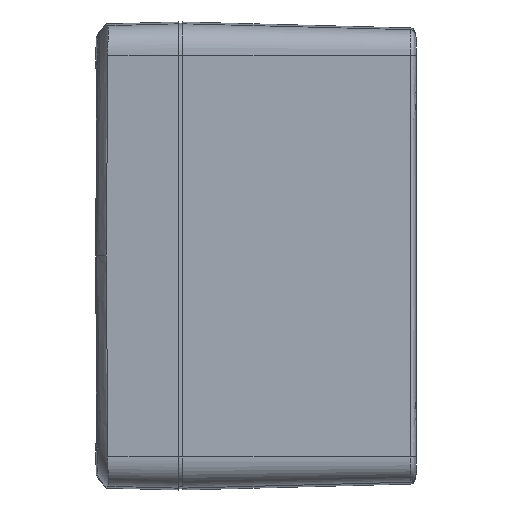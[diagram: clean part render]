
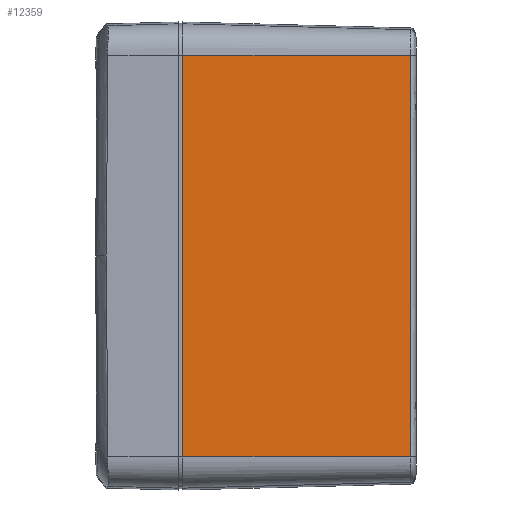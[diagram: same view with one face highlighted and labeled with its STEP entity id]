
A CAD part, left-side view. The second image highlights one B-rep face of the part: STEP entity #12359.
In plain terms, the highlighted planar face has unit normal (-1, -0.026, 0).
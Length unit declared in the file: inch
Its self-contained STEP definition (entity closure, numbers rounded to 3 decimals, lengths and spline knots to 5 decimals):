
#43 = VECTOR ( 'NONE', #13283, 39.37008 ) ;
#3996 = CARTESIAN_POINT ( 'NONE',  ( -2.5, 1.87125, -1.60995 ) ) ;
#6527 = ORIENTED_EDGE ( 'NONE', *, *, #115760, .T. ) ;
#6569 = VERTEX_POINT ( 'NONE', #15233 ) ;
#6649 = AXIS2_PLACEMENT_3D ( 'NONE', #88338, #100697, #29023 ) ;
#12359 = ADVANCED_FACE ( 'Face2', ( #108525 ), #128663, .T. ) ;
#12495 = DIRECTION ( 'NONE',  ( 0.026, -1., 0. ) ) ;
#13283 = DIRECTION ( 'NONE',  ( 0.026, -1., 0. ) ) ;
#13293 = VERTEX_POINT ( 'NONE', #22416 ) ;
#15233 = CARTESIAN_POINT ( 'NONE',  ( -2.45222, 0.04673, 1.60995 ) ) ;
#17638 = CARTESIAN_POINT ( 'NONE',  ( -2.5, 1.87125, -1.60995 ) ) ;
#21538 = EDGE_LOOP ( 'NONE', ( #98092, #6527, #82833, #59416 ) ) ;
#22416 = CARTESIAN_POINT ( 'NONE',  ( -2.5, 1.87125, 1.60995 ) ) ;
#29023 = DIRECTION ( 'NONE',  ( 0.026, -1., 0. ) ) ;
#30890 = CARTESIAN_POINT ( 'NONE',  ( -2.45222, 0.04671, -1.60995 ) ) ;
#35001 = VERTEX_POINT ( 'NONE', #87800 ) ;
#35045 = CARTESIAN_POINT ( 'NONE',  ( -2.45222, 0.04671, -1.60995 ) ) ;
#47651 = DIRECTION ( 'NONE',  ( 0., 0., 1. ) ) ;
#54782 = B_SPLINE_CURVE_WITH_KNOTS ( 'NONE', 3,
 ( #35045, #94366, #74819, #94991 ),
 .UNSPECIFIED., .F., .F.,
 ( 4, 4 ),
 ( 0., 1. ),
 .UNSPECIFIED. ) ;
#57977 = VERTEX_POINT ( 'NONE', #30890 ) ;
#59416 = ORIENTED_EDGE ( 'NONE', *, *, #107537, .F. ) ;
#64804 = CARTESIAN_POINT ( 'NONE',  ( -2.5, 1.87125, 1.60995 ) ) ;
#74585 = LINE ( 'NONE', #64804, #43 ) ;
#74819 = CARTESIAN_POINT ( 'NONE',  ( -2.45222, 0.04673, 0.53665 ) ) ;
#76374 = LINE ( 'NONE', #17638, #113806 ) ;
#82833 = ORIENTED_EDGE ( 'NONE', *, *, #119335, .F. ) ;
#87800 = CARTESIAN_POINT ( 'NONE',  ( -2.5, 1.87125, -1.60995 ) ) ;
#88338 = CARTESIAN_POINT ( 'NONE',  ( -2.5, 1.87125, -1.60995 ) ) ;
#92383 = VECTOR ( 'NONE', #12495, 39.37008 ) ;
#92725 = LINE ( 'NONE', #3996, #92383 ) ;
#94366 = CARTESIAN_POINT ( 'NONE',  ( -2.45222, 0.04673, -0.53665 ) ) ;
#94991 = CARTESIAN_POINT ( 'NONE',  ( -2.45222, 0.04673, 1.60995 ) ) ;
#98092 = ORIENTED_EDGE ( 'NONE', *, *, #125280, .T. ) ;
#100697 = DIRECTION ( 'NONE',  ( -1., -0.026, 0. ) ) ;
#107537 = EDGE_CURVE ( 'NONE', #35001, #13293, #76374, .T. ) ;
#108525 = FACE_OUTER_BOUND ( 'NONE', #21538, .T. ) ;
#113806 = VECTOR ( 'NONE', #47651, 39.37008 ) ;
#115760 = EDGE_CURVE ( 'NONE', #57977, #6569, #54782, .T. ) ;
#119335 = EDGE_CURVE ( 'NONE', #13293, #6569, #74585, .T. ) ;
#125280 = EDGE_CURVE ( 'NONE', #35001, #57977, #92725, .T. ) ;
#128663 = PLANE ( 'NONE',  #6649 ) ;
